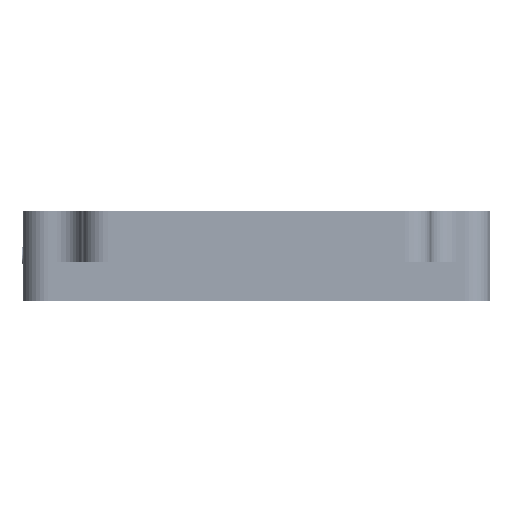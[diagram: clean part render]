
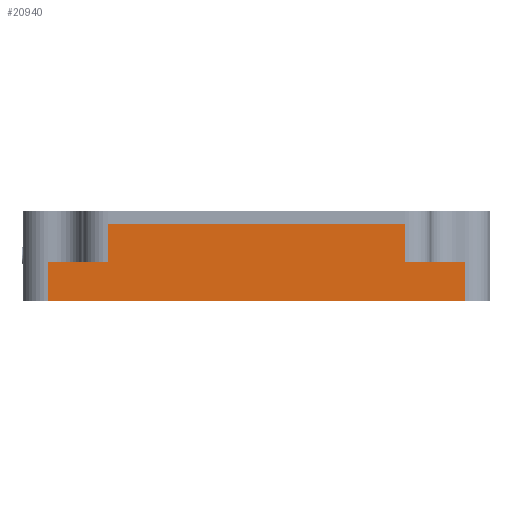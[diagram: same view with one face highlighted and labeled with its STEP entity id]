
A CAD part, left-side view. The second image highlights one B-rep face of the part: STEP entity #20940.
In plain terms, the highlighted planar face has unit normal (-1, 0, 0).
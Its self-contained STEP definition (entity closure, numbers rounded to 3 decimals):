
#1505 = CARTESIAN_POINT ( 'NONE',  ( -62.5, 35., 18. ) ) ;
#2085 = CARTESIAN_POINT ( 'NONE',  ( -62.5, 55., 9. ) ) ;
#2753 = VERTEX_POINT ( 'NONE', #57408 ) ;
#4956 = VECTOR ( 'NONE', #7641, 1000. ) ;
#5384 = DIRECTION ( 'NONE',  ( 0., 1., 0. ) ) ;
#5756 = EDGE_CURVE ( 'NONE', #54960, #30976, #35254, .T. ) ;
#6617 = CARTESIAN_POINT ( 'NONE',  ( -62.5, -35., 9. ) ) ;
#6670 = ORIENTED_EDGE ( 'NONE', *, *, #63794, .F. ) ;
#6745 = ORIENTED_EDGE ( 'NONE', *, *, #56976, .F. ) ;
#7449 = ORIENTED_EDGE ( 'NONE', *, *, #56663, .T. ) ;
#7641 = DIRECTION ( 'NONE',  ( 0., -1., 0. ) ) ;
#8364 = DIRECTION ( 'NONE',  ( 0., -1., 0. ) ) ;
#9273 = ORIENTED_EDGE ( 'NONE', *, *, #25262, .T. ) ;
#10272 = LINE ( 'NONE', #18227, #60116 ) ;
#11242 = DIRECTION ( 'NONE',  ( 0., 1., 0. ) ) ;
#12286 = LINE ( 'NONE', #62114, #17439 ) ;
#13300 = VECTOR ( 'NONE', #11242, 1000. ) ;
#13570 = LINE ( 'NONE', #44199, #44547 ) ;
#14330 = EDGE_LOOP ( 'NONE', ( #6670, #33033, #33455, #60288, #21436, #7449, #6745, #9273 ) ) ;
#15673 = LINE ( 'NONE', #61594, #57799 ) ;
#15814 = LINE ( 'NONE', #2085, #13300 ) ;
#17439 = VECTOR ( 'NONE', #43796, 1000. ) ;
#18227 = CARTESIAN_POINT ( 'NONE',  ( -62.5, -49., 18. ) ) ;
#19956 = VERTEX_POINT ( 'NONE', #52061 ) ;
#19966 = DIRECTION ( 'NONE',  ( 0., 0., -1. ) ) ;
#20072 = FACE_OUTER_BOUND ( 'NONE', #14330, .T. ) ;
#20940 = ADVANCED_FACE ( 'NONE', ( #20072 ), #44174, .F. ) ;
#21436 = ORIENTED_EDGE ( 'NONE', *, *, #5756, .T. ) ;
#22538 = VERTEX_POINT ( 'NONE', #63635 ) ;
#22644 = LINE ( 'NONE', #48402, #4956 ) ;
#25262 = EDGE_CURVE ( 'NONE', #52442, #22538, #12286, .T. ) ;
#28018 = EDGE_CURVE ( 'NONE', #62982, #54960, #15673, .T. ) ;
#29853 = CARTESIAN_POINT ( 'NONE',  ( -62.5, 49., 0. ) ) ;
#30976 = VERTEX_POINT ( 'NONE', #34292 ) ;
#32344 = EDGE_CURVE ( 'NONE', #39519, #19956, #34957, .T. ) ;
#33033 = ORIENTED_EDGE ( 'NONE', *, *, #32344, .T. ) ;
#33455 = ORIENTED_EDGE ( 'NONE', *, *, #56739, .T. ) ;
#34292 = CARTESIAN_POINT ( 'NONE',  ( -62.5, -49., 0. ) ) ;
#34957 = LINE ( 'NONE', #49636, #42451 ) ;
#35254 = LINE ( 'NONE', #59648, #62764 ) ;
#39519 = VERTEX_POINT ( 'NONE', #1505 ) ;
#42451 = VECTOR ( 'NONE', #19966, 1000. ) ;
#43299 = DIRECTION ( 'NONE',  ( 0., 0., 1. ) ) ;
#43796 = DIRECTION ( 'NONE',  ( 0., 0., 1. ) ) ;
#44174 = PLANE ( 'NONE',  #60351 ) ;
#44199 = CARTESIAN_POINT ( 'NONE',  ( -62.5, 55., 18. ) ) ;
#44547 = VECTOR ( 'NONE', #8364, 1000. ) ;
#48402 = CARTESIAN_POINT ( 'NONE',  ( -62.5, -55., 9. ) ) ;
#49636 = CARTESIAN_POINT ( 'NONE',  ( -62.5, 35., 9. ) ) ;
#52061 = CARTESIAN_POINT ( 'NONE',  ( -62.5, 35., 9. ) ) ;
#52442 = VERTEX_POINT ( 'NONE', #6617 ) ;
#54960 = VERTEX_POINT ( 'NONE', #29853 ) ;
#55122 = DIRECTION ( 'NONE',  ( 0., -1., 0. ) ) ;
#56385 = CARTESIAN_POINT ( 'NONE',  ( -62.5, 49., 9. ) ) ;
#56663 = EDGE_CURVE ( 'NONE', #30976, #2753, #10272, .T. ) ;
#56739 = EDGE_CURVE ( 'NONE', #19956, #62982, #15814, .T. ) ;
#56976 = EDGE_CURVE ( 'NONE', #52442, #2753, #22644, .T. ) ;
#57408 = CARTESIAN_POINT ( 'NONE',  ( -62.5, -49., 9. ) ) ;
#57799 = VECTOR ( 'NONE', #60302, 1000. ) ;
#58814 = DIRECTION ( 'NONE',  ( 1., 0., 0. ) ) ;
#59648 = CARTESIAN_POINT ( 'NONE',  ( -62.5, 55., 0. ) ) ;
#60116 = VECTOR ( 'NONE', #43299, 1000. ) ;
#60288 = ORIENTED_EDGE ( 'NONE', *, *, #28018, .T. ) ;
#60302 = DIRECTION ( 'NONE',  ( 0., 0., -1. ) ) ;
#60351 = AXIS2_PLACEMENT_3D ( 'NONE', #64326, #58814, #5384 ) ;
#61594 = CARTESIAN_POINT ( 'NONE',  ( -62.5, 49., 18. ) ) ;
#62114 = CARTESIAN_POINT ( 'NONE',  ( -62.5, -35., 18. ) ) ;
#62764 = VECTOR ( 'NONE', #55122, 1000. ) ;
#62982 = VERTEX_POINT ( 'NONE', #56385 ) ;
#63635 = CARTESIAN_POINT ( 'NONE',  ( -62.5, -35., 18. ) ) ;
#63794 = EDGE_CURVE ( 'NONE', #39519, #22538, #13570, .T. ) ;
#64326 = CARTESIAN_POINT ( 'NONE',  ( -62.5, 55., 18. ) ) ;
